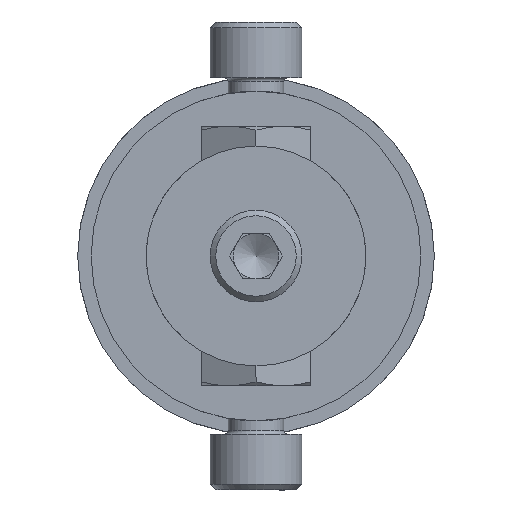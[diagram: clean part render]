
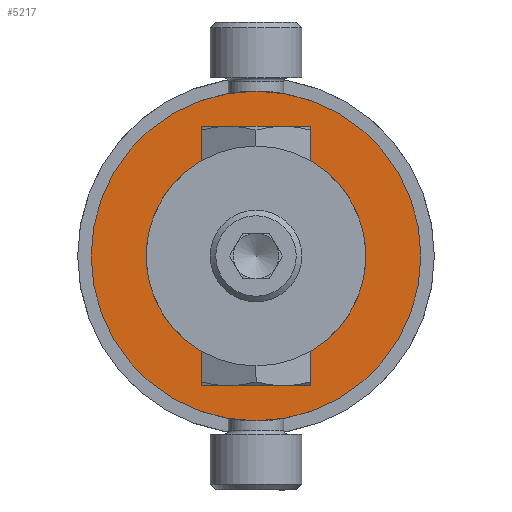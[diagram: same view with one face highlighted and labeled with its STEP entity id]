
A CAD part, left-side view. The second image highlights one B-rep face of the part: STEP entity #5217.
In plain terms, the highlighted planar face has unit normal (-1, 0, 0) as drawn and (0, 1, 0) by its records, which use the part's own axes.
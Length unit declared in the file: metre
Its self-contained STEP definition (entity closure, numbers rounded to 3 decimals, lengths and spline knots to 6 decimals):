
#339=CIRCLE('',#5494,0.009525);
#585=CIRCLE('',#5922,0.014288);
#588=CIRCLE('',#5933,0.009525);
#1755=ORIENTED_EDGE('',*,*,#2684,.F.);
#1756=ORIENTED_EDGE('',*,*,#2208,.F.);
#1757=ORIENTED_EDGE('',*,*,#2676,.T.);
#1758=ORIENTED_EDGE('',*,*,#2211,.T.);
#1759=ORIENTED_EDGE('',*,*,#2190,.F.);
#1760=ORIENTED_EDGE('',*,*,#2196,.T.);
#1761=ORIENTED_EDGE('',*,*,#2667,.F.);
#1762=ORIENTED_EDGE('',*,*,#2200,.F.);
#1763=ORIENTED_EDGE('',*,*,#2665,.T.);
#2190=EDGE_CURVE('',#2907,#2908,#339,.T.);
#2196=EDGE_CURVE('',#2907,#2912,#3368,.T.);
#2200=EDGE_CURVE('',#2916,#2917,#3372,.T.);
#2208=EDGE_CURVE('',#2924,#2919,#3380,.T.);
#2211=EDGE_CURVE('',#2927,#2908,#3383,.T.);
#2665=EDGE_CURVE('',#3210,#3210,#585,.T.);
#2667=EDGE_CURVE('',#2917,#2912,#3590,.T.);
#2676=EDGE_CURVE('',#2924,#2927,#3599,.T.);
#2684=EDGE_CURVE('',#2919,#2916,#588,.T.);
#2907=VERTEX_POINT('',#8058);
#2908=VERTEX_POINT('',#8060);
#2912=VERTEX_POINT('',#8070);
#2916=VERTEX_POINT('',#8079);
#2917=VERTEX_POINT('',#8081);
#2919=VERTEX_POINT('',#8087);
#2924=VERTEX_POINT('',#8096);
#2927=VERTEX_POINT('',#8104);
#3210=VERTEX_POINT('',#9039);
#3368=LINE('',#8071,#3700);
#3372=LINE('',#8080,#3704);
#3380=LINE('',#8097,#3712);
#3383=LINE('',#8103,#3715);
#3590=LINE('',#9044,#3922);
#3599=LINE('',#9060,#3931);
#3700=VECTOR('',#6308,1.);
#3704=VECTOR('',#6314,1.);
#3712=VECTOR('',#6324,1.);
#3715=VECTOR('',#6329,1.);
#3922=VECTOR('',#7390,1.);
#3931=VECTOR('',#7405,1.);
#4275=EDGE_LOOP('',(#1755,#1756,#1757,#1758,#1759,#1760,#1761,#1762));
#4276=EDGE_LOOP('',(#1763));
#4690=FACE_BOUND('',#4275,.T.);
#4691=FACE_BOUND('',#4276,.T.);
#4934=PLANE('',#5932);
#5217=ADVANCED_FACE('',(#4690,#4691),#4934,.T.);
#5494=AXIS2_PLACEMENT_3D('',#8059,#6299,#6300);
#5922=AXIS2_PLACEMENT_3D('',#9038,#7382,#7383);
#5932=AXIS2_PLACEMENT_3D('',#9077,#7418,#7419);
#5933=AXIS2_PLACEMENT_3D('',#9078,#7420,#7421);
#6299=DIRECTION('',(0.,1.,0.));
#6300=DIRECTION('',(0.,0.,1.));
#6308=DIRECTION('',(0.,0.,-1.));
#6314=DIRECTION('',(0.,0.,-1.));
#6324=DIRECTION('',(0.,0.,-1.));
#6329=DIRECTION('',(0.,0.,-1.));
#7382=DIRECTION('',(0.,1.,0.));
#7383=DIRECTION('',(0.,0.,1.));
#7390=DIRECTION('',(-1.,0.,0.));
#7405=DIRECTION('',(-1.,0.,0.));
#7418=DIRECTION('',(0.,1.,0.));
#7419=DIRECTION('',(-1.,0.,0.));
#7420=DIRECTION('',(0.,1.,0.));
#7421=DIRECTION('',(0.,0.,1.));
#8058=CARTESIAN_POINT('',(0.058801,0.026988,-0.008285));
#8059=CARTESIAN_POINT('',(0.0635,0.026988,0.));
#8060=CARTESIAN_POINT('',(0.058801,0.026988,0.008285));
#8070=CARTESIAN_POINT('',(0.058801,0.026988,-0.011252));
#8071=CARTESIAN_POINT('',(0.058801,0.026988,-0.006324));
#8079=CARTESIAN_POINT('',(0.068199,0.026988,-0.008285));
#8080=CARTESIAN_POINT('',(0.068199,0.026988,-0.006324));
#8081=CARTESIAN_POINT('',(0.068199,0.026988,-0.011252));
#8087=CARTESIAN_POINT('',(0.068199,0.026988,0.008285));
#8096=CARTESIAN_POINT('',(0.068199,0.026988,0.011252));
#8097=CARTESIAN_POINT('',(0.068199,0.026988,0.006324));
#8103=CARTESIAN_POINT('',(0.058801,0.026988,0.006324));
#8104=CARTESIAN_POINT('',(0.058801,0.026988,0.011252));
#9038=CARTESIAN_POINT('',(0.0635,0.026988,0.));
#9039=CARTESIAN_POINT('',(0.0635,0.026988,0.014288));
#9044=CARTESIAN_POINT('',(0.0635,0.026988,-0.011252));
#9060=CARTESIAN_POINT('',(0.0635,0.026988,0.011252));
#9077=CARTESIAN_POINT('',(0.0635,0.026988,0.));
#9078=CARTESIAN_POINT('',(0.0635,0.026988,0.));
